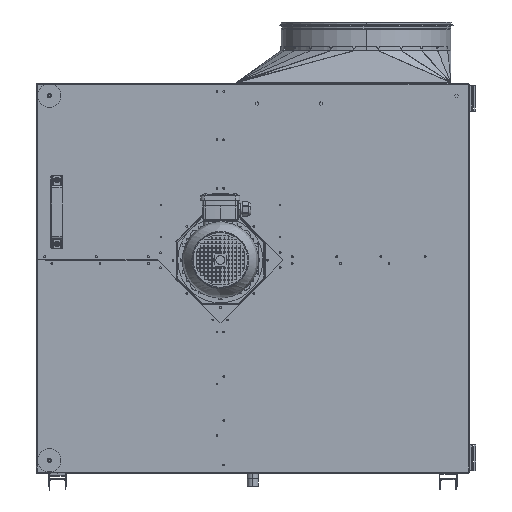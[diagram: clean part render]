
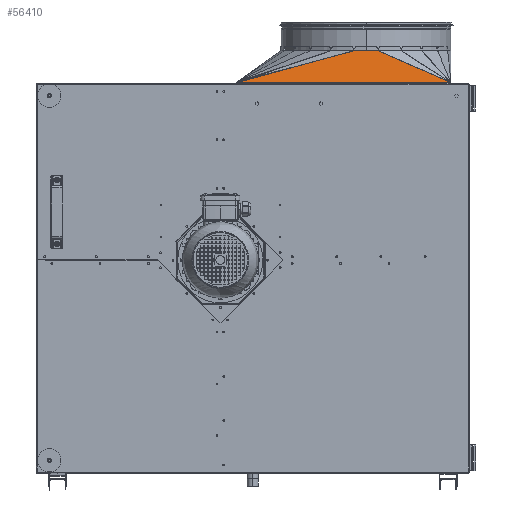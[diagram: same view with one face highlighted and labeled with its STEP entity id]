
A CAD part, top view. The second image highlights one B-rep face of the part: STEP entity #56410.
In plain terms, the highlighted planar face has unit normal (0, 0.193, 0.981).
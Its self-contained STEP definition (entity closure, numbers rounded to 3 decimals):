
#487 = ORIENTED_EDGE ( 'NONE', *, *, #39855, .F. ) ;
#4335 = LINE ( 'NONE', #125754, #8733 ) ;
#5426 = CARTESIAN_POINT ( 'NONE',  ( -37.622, 459.472, 463.791 ) ) ;
#6172 = EDGE_CURVE ( 'NONE', #22282, #139844, #135618, .T. ) ;
#8733 = VECTOR ( 'NONE', #42334, 1000. ) ;
#12026 = LINE ( 'NONE', #114593, #151293 ) ;
#18636 = CARTESIAN_POINT ( 'NONE',  ( -37.581, 459.17, 463.85 ) ) ;
#22194 = CARTESIAN_POINT ( 'NONE',  ( 295.468, 533.67, 449.22 ) ) ;
#22282 = VERTEX_POINT ( 'NONE', #61269 ) ;
#23221 = ORIENTED_EDGE ( 'NONE', *, *, #6172, .F. ) ;
#32649 = CARTESIAN_POINT ( 'NONE',  ( -37.581, 459.272, 463.83 ) ) ;
#39855 = EDGE_CURVE ( 'NONE', #99721, #22282, #67435, .T. ) ;
#40650 = ORIENTED_EDGE ( 'NONE', *, *, #129773, .F. ) ;
#42334 = DIRECTION ( 'NONE',  ( -0.964, -0.262, 0.051 ) ) ;
#45081 = CARTESIAN_POINT ( 'NONE',  ( 465.265, 459.17, 463.85 ) ) ;
#46584 = CARTESIAN_POINT ( 'NONE',  ( -37.622, 459.472, 463.791 ) ) ;
#56410 = ADVANCED_FACE ( 'NONE', ( #150436 ), #122871, .T. ) ;
#61269 = CARTESIAN_POINT ( 'NONE',  ( 464.781, 459.17, 463.85 ) ) ;
#61995 = VERTEX_POINT ( 'NONE', #22194 ) ;
#66316 =( BOUNDED_CURVE ( )  B_SPLINE_CURVE ( 3, ( #18636, #32649, #130007, #46584 ),
 .UNSPECIFIED., .F., .F. ) 
 B_SPLINE_CURVE_WITH_KNOTS ( ( 4, 4 ),
 ( 1.571, 1.836 ),
 .UNSPECIFIED. ) 
 CURVE ( )  GEOMETRIC_REPRESENTATION_ITEM ( )  RATIONAL_B_SPLINE_CURVE ( ( 1., 0.994, 0.994, 1. ) ) 
 REPRESENTATION_ITEM ( '' )  );
#67240 = CARTESIAN_POINT ( 'NONE',  ( 464.781, 459.17, 463.85 ) ) ;
#67411 = DIRECTION ( 'NONE',  ( 0., 0.193, 0.981 ) ) ;
#67435 =( BOUNDED_CURVE ( )  B_SPLINE_CURVE ( 3, ( #177343, #136645, #150568, #67240 ),
 .UNSPECIFIED., .F., .F. ) 
 B_SPLINE_CURVE_WITH_KNOTS ( ( 4, 4 ),
 ( 3.318, 3.575 ),
 .UNSPECIFIED. ) 
 CURVE ( )  GEOMETRIC_REPRESENTATION_ITEM ( )  RATIONAL_B_SPLINE_CURVE ( ( 1., 0.995, 0.995, 1. ) ) 
 REPRESENTATION_ITEM ( '' )  );
#67783 = EDGE_CURVE ( 'NONE', #139844, #81134, #66316, .T. ) ;
#79130 = ORIENTED_EDGE ( 'NONE', *, *, #94130, .T. ) ;
#81134 = VERTEX_POINT ( 'NONE', #5426 ) ;
#86527 = DIRECTION ( 'NONE',  ( -1., 0., 0. ) ) ;
#87533 = CARTESIAN_POINT ( 'NONE',  ( -37.581, 459.17, 463.85 ) ) ;
#94130 = EDGE_CURVE ( 'NONE', #61995, #120320, #12026, .T. ) ;
#99721 = VERTEX_POINT ( 'NONE', #100340 ) ;
#100340 = CARTESIAN_POINT ( 'NONE',  ( 465.063, 459.259, 463.833 ) ) ;
#100771 = VECTOR ( 'NONE', #143573, 1000. ) ;
#102332 = ORIENTED_EDGE ( 'NONE', *, *, #67783, .F. ) ;
#112385 = EDGE_CURVE ( 'NONE', #120320, #81134, #4335, .T. ) ;
#114593 = CARTESIAN_POINT ( 'NONE',  ( 265.965, 533.67, 449.22 ) ) ;
#118422 = ORIENTED_EDGE ( 'NONE', *, *, #112385, .T. ) ;
#120320 = VERTEX_POINT ( 'NONE', #160079 ) ;
#122871 = PLANE ( 'NONE',  #173590 ) ;
#125754 = CARTESIAN_POINT ( 'NONE',  ( -38.735, 459.17, 463.85 ) ) ;
#129773 = EDGE_CURVE ( 'NONE', #61995, #99721, #174700, .T. ) ;
#130007 = CARTESIAN_POINT ( 'NONE',  ( -37.595, 459.374, 463.81 ) ) ;
#134443 = EDGE_LOOP ( 'NONE', ( #102332, #23221, #487, #40650, #79130, #118422 ) ) ;
#135618 = LINE ( 'NONE', #45081, #163821 ) ;
#136645 = CARTESIAN_POINT ( 'NONE',  ( 464.965, 459.241, 463.836 ) ) ;
#139844 = VERTEX_POINT ( 'NONE', #87533 ) ;
#142831 = DIRECTION ( 'NONE',  ( -1., 0., 0. ) ) ;
#143573 = DIRECTION ( 'NONE',  ( 0.913, -0.401, 0.079 ) ) ;
#150436 = FACE_OUTER_BOUND ( 'NONE', #134443, .T. ) ;
#150568 = CARTESIAN_POINT ( 'NONE',  ( 464.871, 459.212, 463.842 ) ) ;
#150741 = CARTESIAN_POINT ( 'NONE',  ( 265.965, 571.472, 441.796 ) ) ;
#151293 = VECTOR ( 'NONE', #86527, 1000. ) ;
#158153 = CARTESIAN_POINT ( 'NONE',  ( 294.328, 534.17, 449.121 ) ) ;
#160079 = CARTESIAN_POINT ( 'NONE',  ( 235.759, 533.67, 449.22 ) ) ;
#163821 = VECTOR ( 'NONE', #142831, 1000. ) ;
#164705 = DIRECTION ( 'NONE',  ( 0., 0.981, -0.193 ) ) ;
#173590 = AXIS2_PLACEMENT_3D ( 'NONE', #150741, #67411, #164705 ) ;
#174700 = LINE ( 'NONE', #158153, #100771 ) ;
#177343 = CARTESIAN_POINT ( 'NONE',  ( 465.063, 459.259, 463.833 ) ) ;
